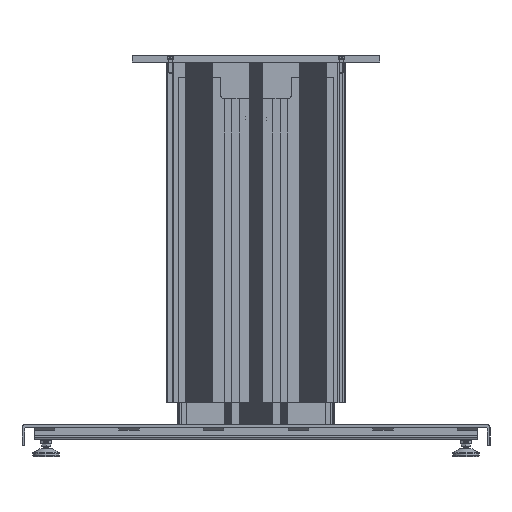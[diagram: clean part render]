
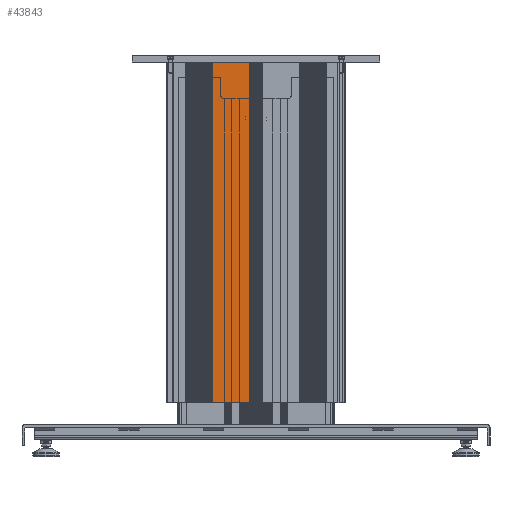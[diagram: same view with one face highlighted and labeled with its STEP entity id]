
A CAD part, front view. The second image highlights one B-rep face of the part: STEP entity #43843.
In plain terms, the highlighted planar face has unit normal (0, -1, 0) as drawn and (0, 0, -1) by its records, which use the part's own axes.
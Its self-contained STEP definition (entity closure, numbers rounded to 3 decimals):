
#9007=ORIENTED_EDGE('',*,*,#19245,.T.);
#9008=ORIENTED_EDGE('',*,*,#19246,.F.);
#9009=ORIENTED_EDGE('',*,*,#19247,.F.);
#9010=ORIENTED_EDGE('',*,*,#19248,.T.);
#19245=EDGE_CURVE('',#24835,#24836,#29254,.T.);
#19246=EDGE_CURVE('',#24837,#24836,#29255,.T.);
#19247=EDGE_CURVE('',#24838,#24837,#29256,.T.);
#19248=EDGE_CURVE('',#24838,#24835,#29257,.T.);
#24835=VERTEX_POINT('',#77109);
#24836=VERTEX_POINT('',#77110);
#24837=VERTEX_POINT('',#77112);
#24838=VERTEX_POINT('',#77114);
#29254=LINE('',#77108,#33735);
#29255=LINE('',#77111,#33736);
#29256=LINE('',#77113,#33737);
#29257=LINE('',#77115,#33738);
#33735=VECTOR('',#63401,1000.);
#33736=VECTOR('',#63402,1000.);
#33737=VECTOR('',#63403,1000.);
#33738=VECTOR('',#63404,1000.);
#37138=EDGE_LOOP('',(#9007,#9008,#9009,#9010));
#39750=FACE_BOUND('',#37138,.T.);
#42037=PLANE('',#55429);
#43843=ADVANCED_FACE('',(#39750),#42037,.T.);
#55429=AXIS2_PLACEMENT_3D('',#77107,#63399,#63400);
#63399=DIRECTION('',(0.,0.,-1.));
#63400=DIRECTION('',(-1.,0.,0.));
#63401=DIRECTION('',(0.,-1.,0.));
#63402=DIRECTION('',(1.,0.,0.));
#63403=DIRECTION('',(0.,-1.,0.));
#63404=DIRECTION('',(1.,0.,0.));
#77107=CARTESIAN_POINT('',(-130.,495.,-20.));
#77108=CARTESIAN_POINT('',(62.9,560.558,-20.));
#77109=CARTESIAN_POINT('',(62.9,495.,-20.));
#77110=CARTESIAN_POINT('',(62.9,0.,-20.));
#77111=CARTESIAN_POINT('',(-130.,0.,-20.));
#77112=CARTESIAN_POINT('',(9.2,0.,-20.));
#77113=CARTESIAN_POINT('',(9.2,560.558,-20.));
#77114=CARTESIAN_POINT('',(9.2,495.,-20.));
#77115=CARTESIAN_POINT('',(-130.,495.,-20.));
